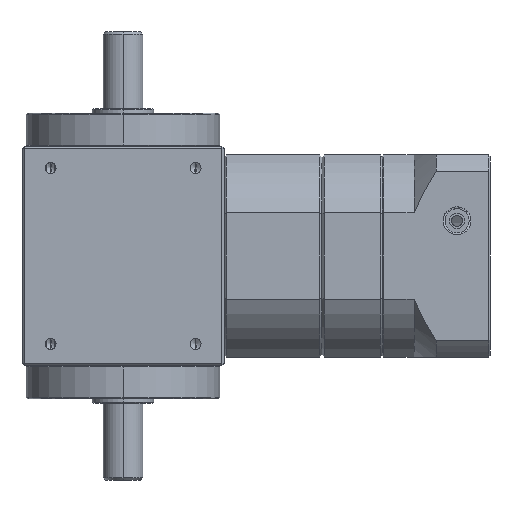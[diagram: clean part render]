
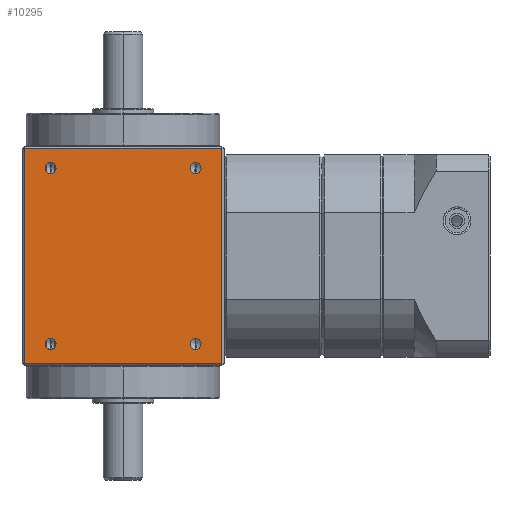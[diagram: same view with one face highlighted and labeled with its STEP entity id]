
A CAD part, left-side view. The second image highlights one B-rep face of the part: STEP entity #10295.
In plain terms, the highlighted planar face has unit normal (-1, 0, 0).
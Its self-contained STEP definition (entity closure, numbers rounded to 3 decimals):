
#135 = EDGE_CURVE ( 'NONE', #4419, #4365, #497, .T. ) ;
#312 = ORIENTED_EDGE ( 'NONE', *, *, #10432, .F. ) ;
#315 = ORIENTED_EDGE ( 'NONE', *, *, #6542, .T. ) ;
#331 = ORIENTED_EDGE ( 'NONE', *, *, #6524, .F. ) ;
#332 = ORIENTED_EDGE ( 'NONE', *, *, #6575, .T. ) ;
#361 = ORIENTED_EDGE ( 'NONE', *, *, #6570, .T. ) ;
#395 = ORIENTED_EDGE ( 'NONE', *, *, #6553, .F. ) ;
#402 = ORIENTED_EDGE ( 'NONE', *, *, #6556, .F. ) ;
#403 = ORIENTED_EDGE ( 'NONE', *, *, #7075, .F. ) ;
#408 = ORIENTED_EDGE ( 'NONE', *, *, #10394, .F. ) ;
#411 = ORIENTED_EDGE ( 'NONE', *, *, #6578, .T. ) ;
#415 = ORIENTED_EDGE ( 'NONE', *, *, #135, .F. ) ;
#422 = ORIENTED_EDGE ( 'NONE', *, *, #6565, .F. ) ;
#497 = CIRCLE ( 'NONE', #5819, 2.5 ) ;
#826 = CARTESIAN_POINT ( 'NONE',  ( -46., -45., 49. ) ) ;
#838 = CARTESIAN_POINT ( 'NONE',  ( -46., 45., 49. ) ) ;
#857 = CARTESIAN_POINT ( 'NONE',  ( -46., 45., -49. ) ) ;
#895 = CARTESIAN_POINT ( 'NONE',  ( -46., -45., -49. ) ) ;
#1193 = DIRECTION ( 'NONE',  ( 1., 0., 0. ) ) ;
#1195 = PLANE ( 'NONE',  #7333 ) ;
#1197 = CARTESIAN_POINT ( 'NONE',  ( -46., -46., 50. ) ) ;
#1199 = DIRECTION ( 'NONE',  ( 0., 0., -1. ) ) ;
#1453 = CARTESIAN_POINT ( 'NONE',  ( -46., 33., 40. ) ) ;
#1454 = DIRECTION ( 'NONE',  ( -1., 0., 0. ) ) ;
#1455 = DIRECTION ( 'NONE',  ( 0., 0., 1. ) ) ;
#1622 = CARTESIAN_POINT ( 'NONE',  ( -46., -33., 40. ) ) ;
#1623 = DIRECTION ( 'NONE',  ( -1., 0., 0. ) ) ;
#1624 = DIRECTION ( 'NONE',  ( 0., 0., 1. ) ) ;
#2098 = CIRCLE ( 'NONE', #7386, 2.5 ) ;
#2146 = CIRCLE ( 'NONE', #7401, 2.5 ) ;
#3914 = FACE_BOUND ( 'NONE', #5185, .T. ) ;
#3916 = FACE_BOUND ( 'NONE', #5230, .T. ) ;
#3918 = FACE_BOUND ( 'NONE', #5207, .T. ) ;
#3920 = FACE_OUTER_BOUND ( 'NONE', #7739, .T. ) ;
#3922 = FACE_BOUND ( 'NONE', #5248, .T. ) ;
#3949 = VERTEX_POINT ( 'NONE', #857 ) ;
#3955 = VERTEX_POINT ( 'NONE', #838 ) ;
#3977 = VERTEX_POINT ( 'NONE', #826 ) ;
#3991 = VERTEX_POINT ( 'NONE', #895 ) ;
#4033 = VERTEX_POINT ( 'NONE', #7790 ) ;
#4048 = VERTEX_POINT ( 'NONE', #7805 ) ;
#4061 = VERTEX_POINT ( 'NONE', #7818 ) ;
#4063 = VERTEX_POINT ( 'NONE', #7820 ) ;
#4071 = VERTEX_POINT ( 'NONE', #7828 ) ;
#4074 = VERTEX_POINT ( 'NONE', #7831 ) ;
#4365 = VERTEX_POINT ( 'NONE', #8080 ) ;
#4419 = VERTEX_POINT ( 'NONE', #8113 ) ;
#4591 = CIRCLE ( 'NONE', #5915, 2.5 ) ;
#4620 = LINE ( 'NONE', #8694, #4623 ) ;
#4623 = VECTOR ( 'NONE', #8696, 1000. ) ;
#4636 = CIRCLE ( 'NONE', #5926, 2.5 ) ;
#4642 = CIRCLE ( 'NONE', #5929, 2.5 ) ;
#4655 = CIRCLE ( 'NONE', #5934, 2.5 ) ;
#4661 = LINE ( 'NONE', #8766, #4664 ) ;
#4664 = VECTOR ( 'NONE', #8767, 1000. ) ;
#4665 = LINE ( 'NONE', #8781, #4678 ) ;
#4671 = LINE ( 'NONE', #8769, #4673 ) ;
#4673 = VECTOR ( 'NONE', #8752, 1000. ) ;
#4678 = VECTOR ( 'NONE', #8774, 1000. ) ;
#4867 = CIRCLE ( 'NONE', #5992, 2.5 ) ;
#5185 = EDGE_LOOP ( 'NONE', ( #331, #415 ) ) ;
#5207 = EDGE_LOOP ( 'NONE', ( #395, #312 ) ) ;
#5230 = EDGE_LOOP ( 'NONE', ( #402, #403 ) ) ;
#5248 = EDGE_LOOP ( 'NONE', ( #422, #408 ) ) ;
#5819 = AXIS2_PLACEMENT_3D ( 'NONE', #6785, #6771, #6746 ) ;
#5915 = AXIS2_PLACEMENT_3D ( 'NONE', #8651, #8652, #8653 ) ;
#5926 = AXIS2_PLACEMENT_3D ( 'NONE', #8719, #8720, #8721 ) ;
#5929 = AXIS2_PLACEMENT_3D ( 'NONE', #8729, #8730, #8731 ) ;
#5934 = AXIS2_PLACEMENT_3D ( 'NONE', #8754, #8755, #8756 ) ;
#5992 = AXIS2_PLACEMENT_3D ( 'NONE', #9430, #9431, #9433 ) ;
#6524 = EDGE_CURVE ( 'NONE', #4365, #4419, #4591, .T. ) ;
#6542 = EDGE_CURVE ( 'NONE', #3949, #3991, #4620, .T. ) ;
#6553 = EDGE_CURVE ( 'NONE', #4063, #4061, #4636, .T. ) ;
#6556 = EDGE_CURVE ( 'NONE', #4074, #4071, #4642, .T. ) ;
#6565 = EDGE_CURVE ( 'NONE', #4048, #4033, #4655, .T. ) ;
#6570 = EDGE_CURVE ( 'NONE', #3991, #3977, #4661, .T. ) ;
#6575 = EDGE_CURVE ( 'NONE', #3955, #3949, #4671, .T. ) ;
#6578 = EDGE_CURVE ( 'NONE', #3977, #3955, #4665, .T. ) ;
#6746 = DIRECTION ( 'NONE',  ( 0., 0., 1. ) ) ;
#6771 = DIRECTION ( 'NONE',  ( -1., 0., 0. ) ) ;
#6785 = CARTESIAN_POINT ( 'NONE',  ( -46., 33., -40. ) ) ;
#7075 = EDGE_CURVE ( 'NONE', #4071, #4074, #4867, .T. ) ;
#7333 = AXIS2_PLACEMENT_3D ( 'NONE', #1197, #1193, #1199 ) ;
#7386 = AXIS2_PLACEMENT_3D ( 'NONE', #1453, #1454, #1455 ) ;
#7401 = AXIS2_PLACEMENT_3D ( 'NONE', #1622, #1623, #1624 ) ;
#7739 = EDGE_LOOP ( 'NONE', ( #361, #411, #332, #315 ) ) ;
#7790 = CARTESIAN_POINT ( 'NONE',  ( -46., 33., 37.5 ) ) ;
#7805 = CARTESIAN_POINT ( 'NONE',  ( -46., 33., 42.5 ) ) ;
#7818 = CARTESIAN_POINT ( 'NONE',  ( -46., -33., 37.5 ) ) ;
#7820 = CARTESIAN_POINT ( 'NONE',  ( -46., -33., 42.5 ) ) ;
#7828 = CARTESIAN_POINT ( 'NONE',  ( -46., -33., -42.5 ) ) ;
#7831 = CARTESIAN_POINT ( 'NONE',  ( -46., -33., -37.5 ) ) ;
#8080 = CARTESIAN_POINT ( 'NONE',  ( -46., 33., -37.5 ) ) ;
#8113 = CARTESIAN_POINT ( 'NONE',  ( -46., 33., -42.5 ) ) ;
#8651 = CARTESIAN_POINT ( 'NONE',  ( -46., 33., -40. ) ) ;
#8652 = DIRECTION ( 'NONE',  ( -1., 0., 0. ) ) ;
#8653 = DIRECTION ( 'NONE',  ( 0., 0., 1. ) ) ;
#8694 = CARTESIAN_POINT ( 'NONE',  ( -46., -46., -49. ) ) ;
#8696 = DIRECTION ( 'NONE',  ( 0., -1., 0. ) ) ;
#8719 = CARTESIAN_POINT ( 'NONE',  ( -46., -33., 40. ) ) ;
#8720 = DIRECTION ( 'NONE',  ( -1., 0., 0. ) ) ;
#8721 = DIRECTION ( 'NONE',  ( 0., 0., 1. ) ) ;
#8729 = CARTESIAN_POINT ( 'NONE',  ( -46., -33., -40. ) ) ;
#8730 = DIRECTION ( 'NONE',  ( -1., 0., 0. ) ) ;
#8731 = DIRECTION ( 'NONE',  ( 0., 0., 1. ) ) ;
#8752 = DIRECTION ( 'NONE',  ( 0., 0., -1. ) ) ;
#8754 = CARTESIAN_POINT ( 'NONE',  ( -46., 33., 40. ) ) ;
#8755 = DIRECTION ( 'NONE',  ( -1., 0., 0. ) ) ;
#8756 = DIRECTION ( 'NONE',  ( 0., 0., 1. ) ) ;
#8766 = CARTESIAN_POINT ( 'NONE',  ( -46., -45., 50. ) ) ;
#8767 = DIRECTION ( 'NONE',  ( 0., 0., 1. ) ) ;
#8769 = CARTESIAN_POINT ( 'NONE',  ( -46., 45., 50. ) ) ;
#8774 = DIRECTION ( 'NONE',  ( 0., 1., 0. ) ) ;
#8781 = CARTESIAN_POINT ( 'NONE',  ( -46., 46., 49. ) ) ;
#9430 = CARTESIAN_POINT ( 'NONE',  ( -46., -33., -40. ) ) ;
#9431 = DIRECTION ( 'NONE',  ( -1., 0., 0. ) ) ;
#9433 = DIRECTION ( 'NONE',  ( 0., 0., 1. ) ) ;
#10295 = ADVANCED_FACE ( 'NONE', ( #3914, #3922, #3918, #3916, #3920 ), #1195, .F. ) ;
#10394 = EDGE_CURVE ( 'NONE', #4033, #4048, #2098, .T. ) ;
#10432 = EDGE_CURVE ( 'NONE', #4061, #4063, #2146, .T. ) ;
